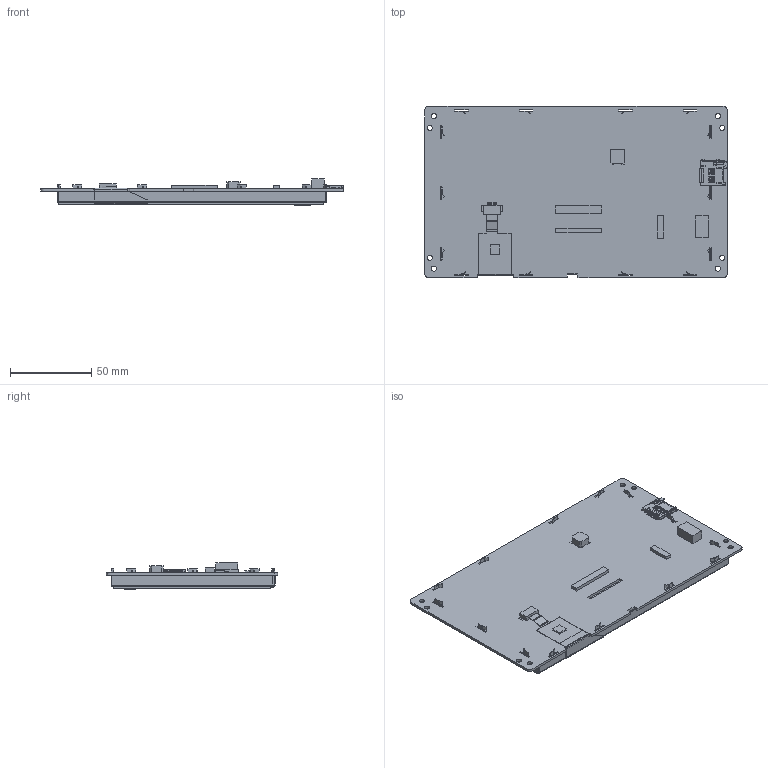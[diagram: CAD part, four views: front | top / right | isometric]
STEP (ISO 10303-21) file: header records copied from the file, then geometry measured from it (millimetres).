
FILE_DESCRIPTION(/* description */ (''),/* implementation_level */ '2;1');
FILE_NAME(/* name */ '',/* time_stamp */ '2023-11-30T20:01:37+08:00',/* author */ (''),/* organization */ (''),/* preprocessor_version */ 'ST-DEVELOPER v11',/* originating_system */ 'SIEMENS PLM Software NX 7.5',/* authorisation */ '');
FILE_SCHEMA (('AP203_CONFIGURATION_CONTROLLED_3D_DESIGN_OF_MECHANICAL_PARTS_AND_ASSEMBLIES_MIM_LF'));
Length unit declared in the file: millimetre
Products named in the file (1): VTc070T34C
Bounding box: 186.3 x 105.4 x 16.1 mm (x, y, z)
Volume: 161120.4 mm3; surface area: 123983.8 mm2
Topology: 15 solids, 15 shells, 1328 faces, 3759 edges, 2440 vertices
Faces by surface type: plane 1030, cylinder 294, extrusion 3, cone 1
Full cylindrical faces by diameter (mm): 3.2 x8
Entity records: 43692 total; most frequent: CARTESIAN_POINT 8075, ORIENTED_EDGE 7502, DIRECTION 6862, EDGE_CURVE 3751, VECTOR 3024, LINE 3021, VERTEX_POINT 2440, AXIS2_PLACEMENT_3D 1919
